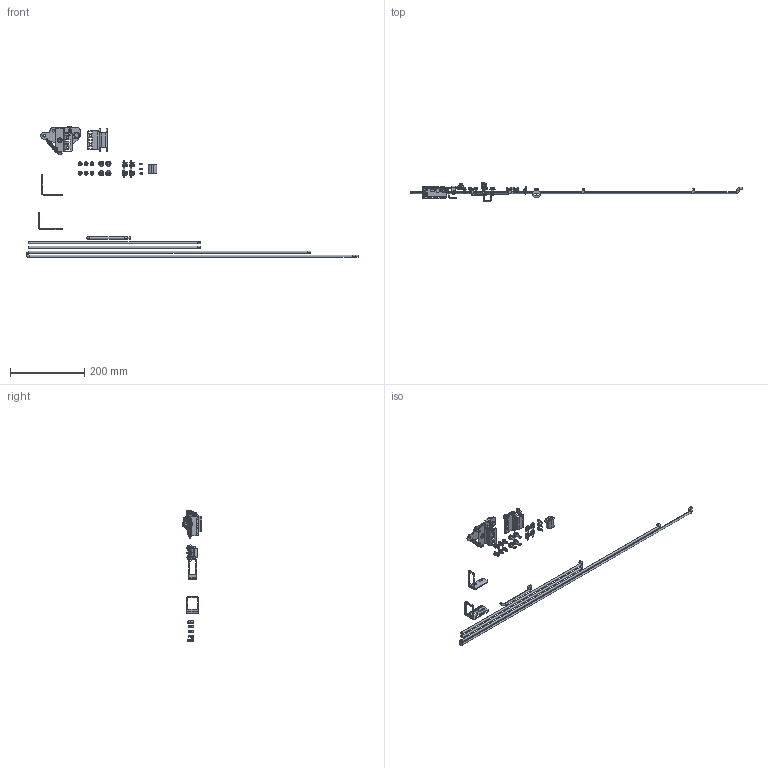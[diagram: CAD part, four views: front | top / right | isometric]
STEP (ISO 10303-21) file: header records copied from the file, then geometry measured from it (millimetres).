
FILE_DESCRIPTION (( 'STEP AP214' ), '1' );
FILE_NAME ('pmlsk.STEP', '2021-12-13T22:27:46', ( '' ), ( '' ), 'SwSTEP 2.0', 'SolidWorks 2020', '' );
FILE_SCHEMA (( 'AUTOMOTIVE_DESIGN' ));
Length unit declared in the file: inch
Products named in the file (29): 87781614; 21158137; 87415187; 11258921; pmlsk; 22318002; 87547883_87547883; 87785596; 11258919; 11258920; 87781603; 99401591_As Installed; 21158152; 89064467; 26174001_Full Extension; 21158130; 26174001; 89063902; 87400675; 21158139; 87400627; 21158157; 87400746; 87400753; 60127033_60127033; 87575756_87575756; 46105001; 26132028_26132028; 21158133
Assembly tree (52 placements, depth 4):
  pmlsk
    60127033_60127033  x4
    87547883_87547883  x6
    87575756_87575756  x4
    21158139
    87415187
    11258920
      21158133
        89064467
        99401591_As Installed  x3
        87785596
      26132028_26132028  x4
      87781603
      22318002  x2
      46105001
      26174001_Full Extension
      26174001
    21158157
    21158152  x3
    21158137  x2
    87400675
    87400627
    11258921
      11258919
        89063902
        99401591_As Installed
      26132028_26132028  x2
      87781614
      22318002
    87400753
      21158130
      87400746
Bounding box: 896.09 x 52.72 x 353.46 mm (x, y, z)
Volume: 147405.4 mm3; surface area: 118296.2 mm2
Topology: 54 solids, 54 shells, 2051 faces, 4648 edges, 2717 vertices
Faces by surface type: plane 915, cylinder 549, cone 401, torus 94, bspline 92
Entity records: 33062 total; most frequent: CARTESIAN_POINT 11892, DIRECTION 4240, ORIENTED_EDGE 3946, EDGE_CURVE 1973, AXIS2_PLACEMENT_3D 1583, VERTEX_POINT 1205, LINE 1074, VECTOR 1074
